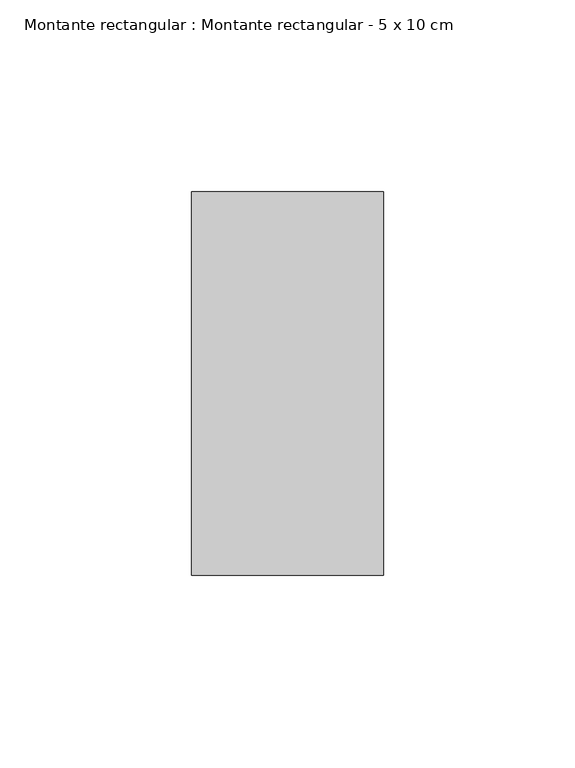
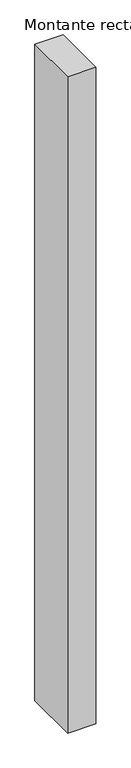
"""IFC4 building model written with IfcOpenShell, lengths in millimetres: member geometry, Montante rectangular : Montante rectangular - 5 x 10 cm."""

from ifc_helpers import new_model, si_unit, frame, origin, place, context, project, spatial, polyline, outline, extrude, source, transform, mapped, element, save


def montante_rectangular_montante_rectangular_5_x_10_cm_b264d7ae(model_context):
    return source(origin(), model_context, "Body", "SweptSolid", [
        extrude(outline(polyline([(25.0, 50.0), (25.0, -50.0), (-25.0, -50.0), (-25.0, 50.0), (25.0, 50.0)])), frame((0.0, 0.0, -1225.0), z_axis=(0.0, 0.0, 1.0), x_axis=(1.0, 0.0, 0.0)), (0.0, 0.0, 1.0), 1225.0),
    ])


if __name__ == "__main__":
    model = new_model("IFC4")
    model_context = context("Model", 3, world=origin())
    ifc_project = project(units=[si_unit("LENGTHUNIT", "METRE", prefix="MILLI")], contexts=[model_context])
    site = spatial("IfcSite", under=ifc_project)
    building = spatial("IfcBuilding", under=site)
    placement = place(None, origin())
    montante_rectangular_montante_rectangular_5_x_10_cm_shape = montante_rectangular_montante_rectangular_5_x_10_cm_b264d7ae(model_context)
    element("IfcMember", 1, ObjectType="Montante rectangular : Montante rectangular - 5 x 10 cm", at=placement, inside=building, context=model_context, shape_type="MappedRepresentation", body=[
        mapped(montante_rectangular_montante_rectangular_5_x_10_cm_shape, transform((0.0, 0.0, 0.0), x_axis=(1.0, 0.0, 0.0), y_axis=(0.0, 1.0, 0.0), z_axis=(0.0, 0.0, 1.0))),
    ])
    save(model, "model.ifc")
